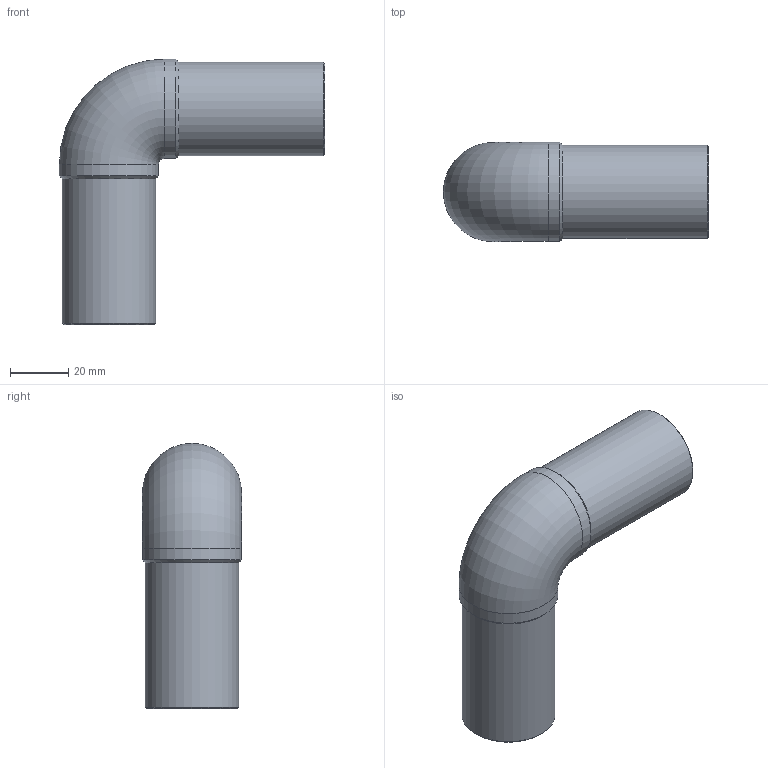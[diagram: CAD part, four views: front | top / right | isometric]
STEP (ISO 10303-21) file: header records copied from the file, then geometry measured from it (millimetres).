
FILE_DESCRIPTION(/* description */ ('Unknown'),/* implementation_level */ '2;1');
FILE_NAME(/* name */ 'G9P032H',/* time_stamp */ '2021-11-15T15:38:29+01:00',/* author */ ('Unknown'),/* organization */ ('Unknown'),/* preprocessor_version */ 'ST-DEVELOPER v16.7',/* originating_system */ 'Solid Edge',/* authorisation */ 'Unknown');
FILE_SCHEMA (('AUTOMOTIVE_DESIGN {1 0 10303 214 3 1 1}'));
Length unit declared in the file: millimetre
Products named in the file (1): G9P032H
Bounding box: 91 x 34 x 91 mm (x, y, z)
Volume: 57864 mm3; surface area: 25310.6 mm2
Topology: 1 solids, 1 shells, 14 faces, 34 edges, 22 vertices
Faces by surface type: cylinder 6, cone 4, plane 2, torus 2
Full cylindrical faces by diameter (mm): 23.2 x2, 32 x2, 34 x2
Entity records: 368 total; most frequent: CARTESIAN_POINT 68, DIRECTION 60, ORIENTED_EDGE 38, AXIS2_PLACEMENT_3D 30, EDGE_LOOP 27, FACE_BOUND 27, EDGE_CURVE 19, VERTEX_POINT 18
